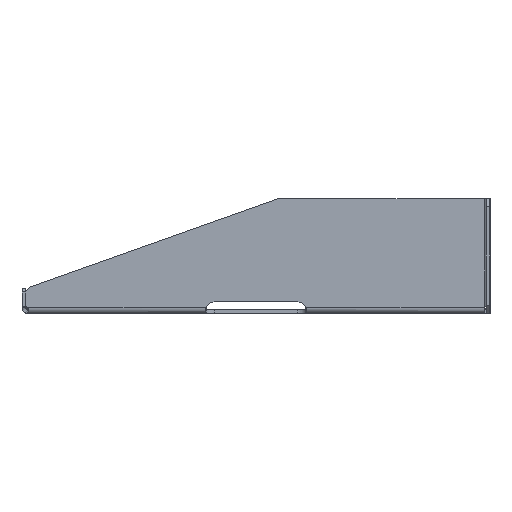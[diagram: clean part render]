
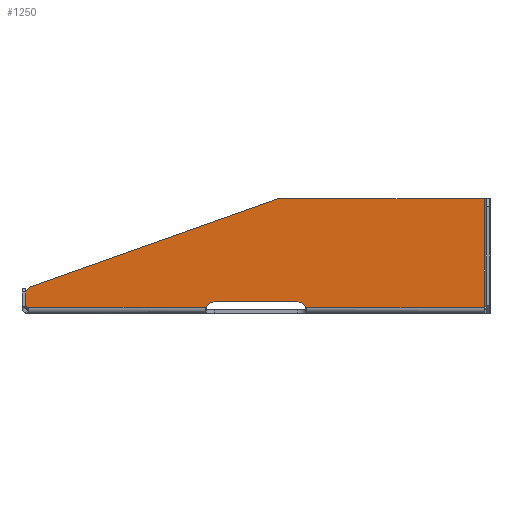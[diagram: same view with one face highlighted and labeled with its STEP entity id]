
A CAD part, left-side view. The second image highlights one B-rep face of the part: STEP entity #1250.
In plain terms, the highlighted planar face has unit normal (-1, 0, 0).
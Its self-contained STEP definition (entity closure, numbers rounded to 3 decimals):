
#1250 = ADVANCED_FACE( '', ( #2696 ), #2697, .F. );
#2696 = FACE_OUTER_BOUND( '', #4649, .T. );
#2697 = PLANE( '', #4650 );
#4649 = EDGE_LOOP( '', ( #8526, #8527, #8528, #8529, #8530, #8531, #8532, #8533, #8534, #8535, #8536, #8537 ) );
#4650 = AXIS2_PLACEMENT_3D( '', #8538, #8539, #8540 );
#8526 = ORIENTED_EDGE( '', *, *, #10678, .T. );
#8527 = ORIENTED_EDGE( '', *, *, #11372, .T. );
#8528 = ORIENTED_EDGE( '', *, *, #10359, .F. );
#8529 = ORIENTED_EDGE( '', *, *, #9953, .T. );
#8530 = ORIENTED_EDGE( '', *, *, #10049, .T. );
#8531 = ORIENTED_EDGE( '', *, *, #11158, .T. );
#8532 = ORIENTED_EDGE( '', *, *, #10798, .F. );
#8533 = ORIENTED_EDGE( '', *, *, #11373, .T. );
#8534 = ORIENTED_EDGE( '', *, *, #11126, .T. );
#8535 = ORIENTED_EDGE( '', *, *, #10839, .T. );
#8536 = ORIENTED_EDGE( '', *, *, #10330, .T. );
#8537 = ORIENTED_EDGE( '', *, *, #10604, .T. );
#8538 = CARTESIAN_POINT( '', ( -222.25, -87.808, 1.181 ) );
#8539 = DIRECTION( '', ( 1., 0., 0. ) );
#8540 = DIRECTION( '', ( 0., 0., -1. ) );
#9953 = EDGE_CURVE( '', #12004, #12002, #12005, .F. );
#10049 = EDGE_CURVE( '', #12002, #12173, #12174, .T. );
#10330 = EDGE_CURVE( '', #12645, #12646, #12647, .T. );
#10359 = EDGE_CURVE( '', #12004, #12691, #12692, .T. );
#10604 = EDGE_CURVE( '', #12646, #12390, #13080, .T. );
#10678 = EDGE_CURVE( '', #12390, #11572, #13188, .T. );
#10798 = EDGE_CURVE( '', #13364, #12564, #13366, .F. );
#10839 = EDGE_CURVE( '', #13421, #12645, #13422, .F. );
#11126 = EDGE_CURVE( '', #13833, #13421, #13834, .T. );
#11158 = EDGE_CURVE( '', #12173, #12564, #13877, .T. );
#11372 = EDGE_CURVE( '', #11572, #12691, #14140, .F. );
#11373 = EDGE_CURVE( '', #13364, #13833, #14141, .T. );
#11572 = VERTEX_POINT( '', #14363 );
#12002 = VERTEX_POINT( '', #14996 );
#12004 = VERTEX_POINT( '', #14999 );
#12005 = CIRCLE( '', #15000, 3.175 );
#12173 = VERTEX_POINT( '', #15246 );
#12174 = LINE( '', #15247, #15248 );
#12390 = VERTEX_POINT( '', #15603 );
#12564 = VERTEX_POINT( '', #15858 );
#12645 = VERTEX_POINT( '', #15964 );
#12646 = VERTEX_POINT( '', #15965 );
#12647 = LINE( '', #15966, #15967 );
#12691 = VERTEX_POINT( '', #16041 );
#12692 = LINE( '', #16042, #16043 );
#13080 = CIRCLE( '', #16592, 1.397 );
#13188 = LINE( '', #16744, #16745 );
#13364 = VERTEX_POINT( '', #16983 );
#13366 = LINE( '', #16985, #16986 );
#13421 = VERTEX_POINT( '', #17066 );
#13422 = LINE( '', #17067, #17068 );
#13833 = VERTEX_POINT( '', #17622 );
#13834 = LINE( '', #17623, #17624 );
#13877 = LINE( '', #17686, #17687 );
#14140 = CIRCLE( '', #18078, 3.175 );
#14141 = LINE( '', #18079, #18080 );
#14363 = CARTESIAN_POINT( '', ( -222.25, 17.795, 2.184 ) );
#14996 = CARTESIAN_POINT( '', ( -222.25, -19.979, 2.184 ) );
#14999 = CARTESIAN_POINT( '', ( -222.25, -16.967, 4.356 ) );
#15000 = AXIS2_PLACEMENT_3D( '', #18637, #18638, #18639 );
#15246 = CARTESIAN_POINT( '', ( -222.25, -87.808, 2.184 ) );
#15247 = CARTESIAN_POINT( '', ( -222.25, 87.808, 2.184 ) );
#15248 = VECTOR( '', #18770, 1000. );
#15603 = CARTESIAN_POINT( '', ( -222.25, 85.655, 2.184 ) );
#15858 = CARTESIAN_POINT( '', ( -222.25, -87.808, 2.743 ) );
#15964 = CARTESIAN_POINT( '', ( -222.25, 86.358, 8.161 ) );
#15965 = CARTESIAN_POINT( '', ( -222.25, 86.358, 2.552 ) );
#15966 = CARTESIAN_POINT( '', ( -222.25, 86.358, 43.637 ) );
#15967 = VECTOR( '', #19090, 1000. );
#16041 = CARTESIAN_POINT( '', ( -222.25, 14.783, 4.356 ) );
#16042 = CARTESIAN_POINT( '', ( -222.25, -87.808, 4.356 ) );
#16043 = VECTOR( '', #19117, 1000. );
#16592 = AXIS2_PLACEMENT_3D( '', #19415, #19416, #19417 );
#16744 = CARTESIAN_POINT( '', ( -222.25, 87.808, 2.184 ) );
#16745 = VECTOR( '', #19492, 1000. );
#16983 = CARTESIAN_POINT( '', ( -222.25, -87.808, 43.637 ) );
#16985 = CARTESIAN_POINT( '', ( -222.25, -87.808, 2.184 ) );
#16986 = VECTOR( '', #19637, 1000. );
#17066 = CARTESIAN_POINT( '', ( -222.25, 85.089, 9.957 ) );
#17067 = CARTESIAN_POINT( '', ( -222.25, 85.089, 9.957 ) );
#17068 = VECTOR( '', #19687, 1000. );
#17622 = CARTESIAN_POINT( '', ( -222.25, -9.703, 43.637 ) );
#17623 = CARTESIAN_POINT( '', ( -222.25, -65.659, 63.519 ) );
#17624 = VECTOR( '', #20149, 1000. );
#17686 = CARTESIAN_POINT( '', ( -222.25, -87.808, 1.181 ) );
#17687 = VECTOR( '', #20181, 1000. );
#18078 = AXIS2_PLACEMENT_3D( '', #20383, #20384, #20385 );
#18079 = CARTESIAN_POINT( '', ( -222.25, -87.808, 43.637 ) );
#18080 = VECTOR( '', #20386, 1000. );
#18637 = CARTESIAN_POINT( '', ( -222.25, -16.967, 1.181 ) );
#18638 = DIRECTION( '', ( -1., 0., 0. ) );
#18639 = DIRECTION( '', ( 0., 0., 1. ) );
#18770 = DIRECTION( '', ( 0., -1., 0. ) );
#19090 = DIRECTION( '', ( 0., 0., -1. ) );
#19117 = DIRECTION( '', ( 0., 1., 0. ) );
#19415 = CARTESIAN_POINT( '', ( -222.25, 86.627, 1.181 ) );
#19416 = DIRECTION( '', ( 1., 0., 0. ) );
#19417 = DIRECTION( '', ( 0., 1., 0. ) );
#19492 = DIRECTION( '', ( 0., -1., 0. ) );
#19637 = DIRECTION( '', ( 0., 0., 1. ) );
#19687 = DIRECTION( '', ( 0., -0.577, 0.817 ) );
#20149 = DIRECTION( '', ( 0., 0.942, -0.335 ) );
#20181 = DIRECTION( '', ( 0., 0., 1. ) );
#20383 = CARTESIAN_POINT( '', ( -222.25, 14.783, 1.181 ) );
#20384 = DIRECTION( '', ( -1., 0., 0. ) );
#20385 = DIRECTION( '', ( 0., 0., 1. ) );
#20386 = DIRECTION( '', ( 0., 1., 0. ) );
